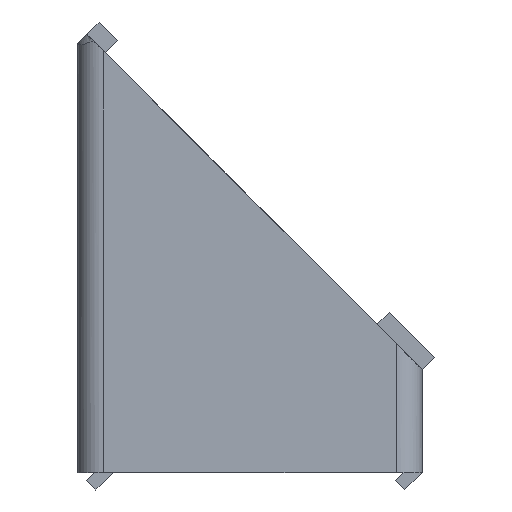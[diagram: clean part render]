
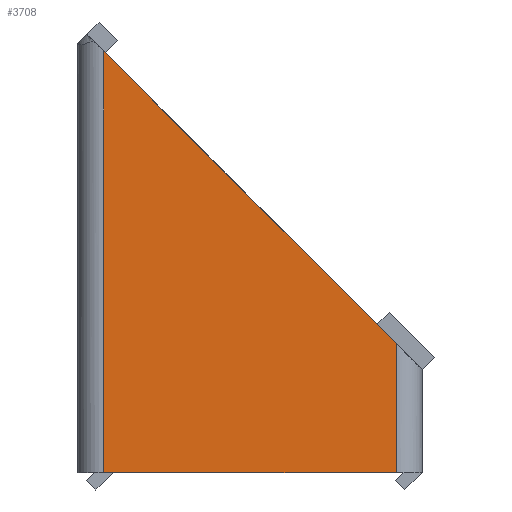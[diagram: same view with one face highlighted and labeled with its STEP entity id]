
A CAD part, left-side view. The second image highlights one B-rep face of the part: STEP entity #3708.
In plain terms, the highlighted planar face has unit normal (-1, 0, 0).
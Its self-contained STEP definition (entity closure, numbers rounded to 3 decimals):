
#221 = DIRECTION ( 'NONE',  ( 0., -1., 0. ) ) ;
#371 = AXIS2_PLACEMENT_3D ( 'NONE', #2686, #5953, #3119 ) ;
#623 = EDGE_CURVE ( 'NONE', #3740, #4154, #1407, .T. ) ;
#760 = CARTESIAN_POINT ( 'NONE',  ( -20., 17., 0. ) ) ;
#1123 = EDGE_CURVE ( 'NONE', #3740, #4758, #5710, .T. ) ;
#1280 = CARTESIAN_POINT ( 'NONE',  ( -20., 17., 0. ) ) ;
#1310 = ORIENTED_EDGE ( 'NONE', *, *, #623, .F. ) ;
#1407 = LINE ( 'NONE', #2845, #2049 ) ;
#1483 = VERTEX_POINT ( 'NONE', #1280 ) ;
#1690 = CARTESIAN_POINT ( 'NONE',  ( -20., -17., 0. ) ) ;
#1984 = ORIENTED_EDGE ( 'NONE', *, *, #1123, .T. ) ;
#2049 = VECTOR ( 'NONE', #3953, 1000. ) ;
#2673 = FACE_OUTER_BOUND ( 'NONE', #3339, .T. ) ;
#2686 = CARTESIAN_POINT ( 'NONE',  ( -20., 17., 52. ) ) ;
#2703 = CARTESIAN_POINT ( 'NONE',  ( -20., -17., 15. ) ) ;
#2845 = CARTESIAN_POINT ( 'NONE',  ( -20., -17., 52. ) ) ;
#3119 = DIRECTION ( 'NONE',  ( 0., 0., -1. ) ) ;
#3154 = EDGE_CURVE ( 'NONE', #1483, #4154, #3625, .T. ) ;
#3200 = VECTOR ( 'NONE', #3951, 1000. ) ;
#3257 = CARTESIAN_POINT ( 'NONE',  ( -20., 20., 52. ) ) ;
#3339 = EDGE_LOOP ( 'NONE', ( #1984, #4532, #5178, #1310 ) ) ;
#3398 = LINE ( 'NONE', #4849, #4640 ) ;
#3493 = VECTOR ( 'NONE', #221, 1000. ) ;
#3538 = PLANE ( 'NONE',  #371 ) ;
#3625 = LINE ( 'NONE', #760, #3493 ) ;
#3708 = ADVANCED_FACE ( 'NONE', ( #2673 ), #3538, .F. ) ;
#3740 = VERTEX_POINT ( 'NONE', #2703 ) ;
#3862 = CARTESIAN_POINT ( 'NONE',  ( -20., 17., 49. ) ) ;
#3951 = DIRECTION ( 'NONE',  ( 0., 0.707, 0.707 ) ) ;
#3953 = DIRECTION ( 'NONE',  ( 0., 0., -1. ) ) ;
#4154 = VERTEX_POINT ( 'NONE', #1690 ) ;
#4171 = EDGE_CURVE ( 'NONE', #1483, #4758, #3398, .T. ) ;
#4532 = ORIENTED_EDGE ( 'NONE', *, *, #4171, .F. ) ;
#4640 = VECTOR ( 'NONE', #5350, 1000. ) ;
#4758 = VERTEX_POINT ( 'NONE', #3862 ) ;
#4849 = CARTESIAN_POINT ( 'NONE',  ( -20., 17., 52. ) ) ;
#5178 = ORIENTED_EDGE ( 'NONE', *, *, #3154, .T. ) ;
#5350 = DIRECTION ( 'NONE',  ( 0., 0., 1. ) ) ;
#5710 = LINE ( 'NONE', #3257, #3200 ) ;
#5953 = DIRECTION ( 'NONE',  ( 1., 0., 0. ) ) ;
